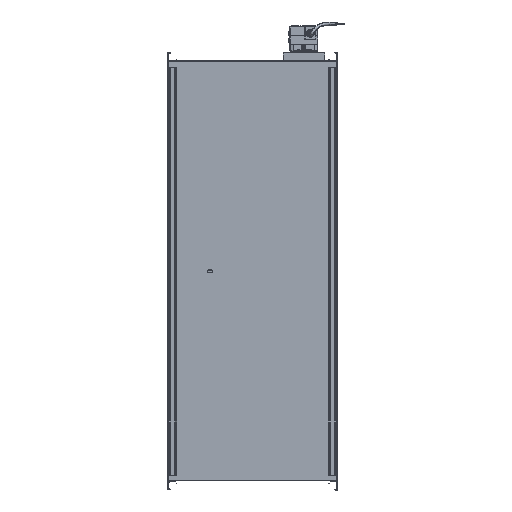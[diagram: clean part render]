
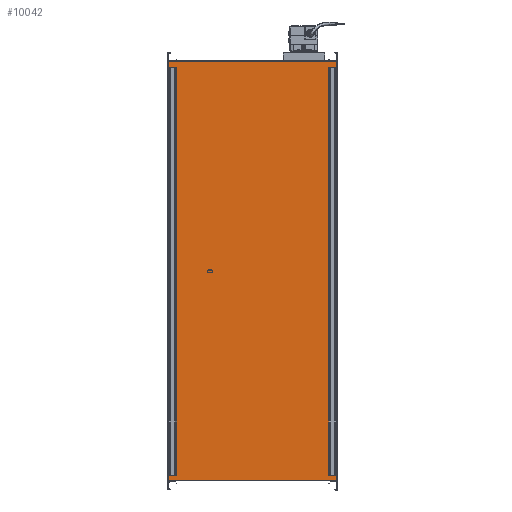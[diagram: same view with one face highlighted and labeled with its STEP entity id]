
A CAD part, front view. The second image highlights one B-rep face of the part: STEP entity #10042.
In plain terms, the highlighted planar face has unit normal (0, -1, 0).
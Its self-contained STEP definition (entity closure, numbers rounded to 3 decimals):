
#7844 = VERTEX_POINT ( 'NONE', #92022 ) ;
#8136 = CARTESIAN_POINT ( 'NONE',  ( -244.423, -485.848, 1598. ) ) ;
#8642 = CARTESIAN_POINT ( 'NONE',  ( 155.577, -485.848, 602. ) ) ;
#9048 = FACE_OUTER_BOUND ( 'NONE', #31516, .T. ) ;
#10042 = ADVANCED_FACE ( 'NONE', ( #9048 ), #18388, .T. ) ;
#11028 = AXIS2_PLACEMENT_3D ( 'NONE', #84317, #77919, #62729 ) ;
#11541 = VECTOR ( 'NONE', #11617, 1000. ) ;
#11617 = DIRECTION ( 'NONE',  ( 1., 0., 0. ) ) ;
#13077 = ORIENTED_EDGE ( 'NONE', *, *, #28180, .T. ) ;
#13941 = CARTESIAN_POINT ( 'NONE',  ( 155.577, -485.848, 1598. ) ) ;
#18388 = PLANE ( 'NONE',  #11028 ) ;
#21209 = VERTEX_POINT ( 'NONE', #90821 ) ;
#27603 = ORIENTED_EDGE ( 'NONE', *, *, #36801, .F. ) ;
#28180 = EDGE_CURVE ( 'NONE', #81818, #7844, #85447, .T. ) ;
#31516 = EDGE_LOOP ( 'NONE', ( #96522, #27603, #13077, #51472 ) ) ;
#32468 = VERTEX_POINT ( 'NONE', #13941 ) ;
#36801 = EDGE_CURVE ( 'NONE', #81818, #32468, #59820, .T. ) ;
#40195 = DIRECTION ( 'NONE',  ( 0., 0., -1. ) ) ;
#43445 = VECTOR ( 'NONE', #40195, 1000. ) ;
#45592 = LINE ( 'NONE', #8642, #43445 ) ;
#48163 = CARTESIAN_POINT ( 'NONE',  ( -244.423, -485.848, 602. ) ) ;
#51472 = ORIENTED_EDGE ( 'NONE', *, *, #73919, .T. ) ;
#55462 = LINE ( 'NONE', #78044, #11541 ) ;
#59820 = LINE ( 'NONE', #65777, #94115 ) ;
#60224 = VECTOR ( 'NONE', #86907, 1000. ) ;
#62729 = DIRECTION ( 'NONE',  ( -1., 0., 0. ) ) ;
#65777 = CARTESIAN_POINT ( 'NONE',  ( -244.423, -485.848, 1598. ) ) ;
#73919 = EDGE_CURVE ( 'NONE', #7844, #21209, #55462, .T. ) ;
#77919 = DIRECTION ( 'NONE',  ( 0., -1., 0. ) ) ;
#78044 = CARTESIAN_POINT ( 'NONE',  ( -244.423, -485.848, 602. ) ) ;
#81818 = VERTEX_POINT ( 'NONE', #8136 ) ;
#84317 = CARTESIAN_POINT ( 'NONE',  ( -244.423, -485.848, 602. ) ) ;
#85447 = LINE ( 'NONE', #48163, #60224 ) ;
#86907 = DIRECTION ( 'NONE',  ( 0., 0., -1. ) ) ;
#90231 = DIRECTION ( 'NONE',  ( 1., 0., 0. ) ) ;
#90821 = CARTESIAN_POINT ( 'NONE',  ( 155.577, -485.848, 602. ) ) ;
#91362 = EDGE_CURVE ( 'NONE', #32468, #21209, #45592, .T. ) ;
#92022 = CARTESIAN_POINT ( 'NONE',  ( -244.423, -485.848, 602. ) ) ;
#94115 = VECTOR ( 'NONE', #90231, 1000. ) ;
#96522 = ORIENTED_EDGE ( 'NONE', *, *, #91362, .F. ) ;
